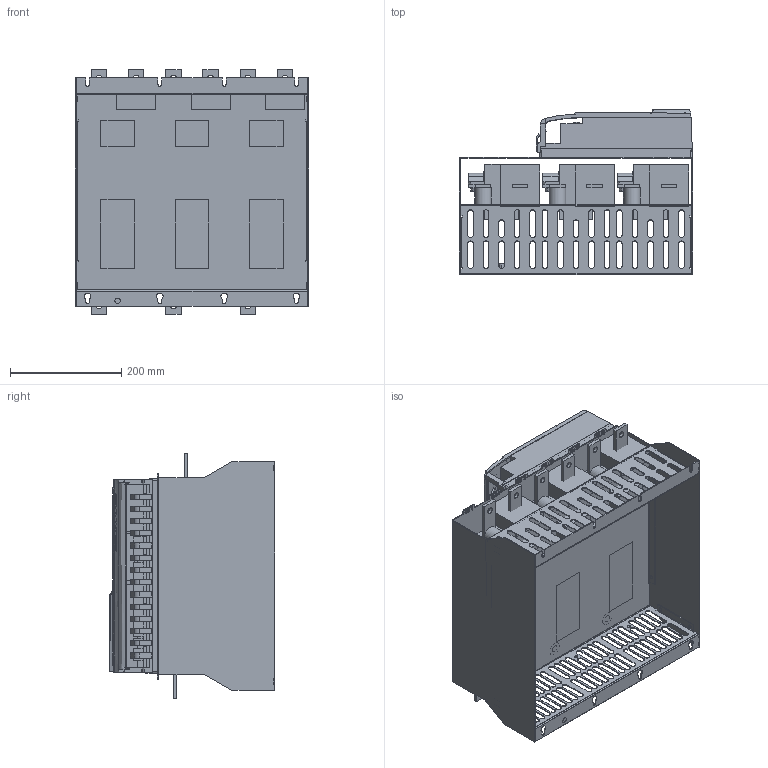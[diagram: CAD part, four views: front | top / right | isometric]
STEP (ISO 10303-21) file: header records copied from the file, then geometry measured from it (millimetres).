
FILE_DESCRIPTION (( 'STEP AP214' ), '1' );
FILE_NAME ('EMX3 G3B Ghisalba 350A, simplified, 20NOV12.STEP', '2012-11-27T00:39:36', ( '' ), ( '' ), 'SwSTEP 2.0', 'SolidWorks 2012', '' );
FILE_SCHEMA (( 'AUTOMOTIVE_DESIGN' ));
Length unit declared in the file: millimetre
Products named in the file (1): EMX3 G3B Ghisalba 350A, simplified, 20NOV12
Bounding box: 420 x 298.35 x 440.2 mm (x, y, z)
Volume: 11034614.5 mm3; surface area: 2522617.5 mm2
Topology: 51 solids, 51 shells, 2861 faces, 7678 edges, 5025 vertices
Faces by surface type: plane 1784, cylinder 654, bspline 284, cone 113, sphere 21, torus 5
Entity records: 140517 total; most frequent: CARTESIAN_POINT 37594, ORIENTED_EDGE 15354, DIRECTION 13428, EDGE_CURVE 7677, VECTOR 5244, LINE 5244, VERTEX_POINT 5025, AXIS2_PLACEMENT_3D 4092
